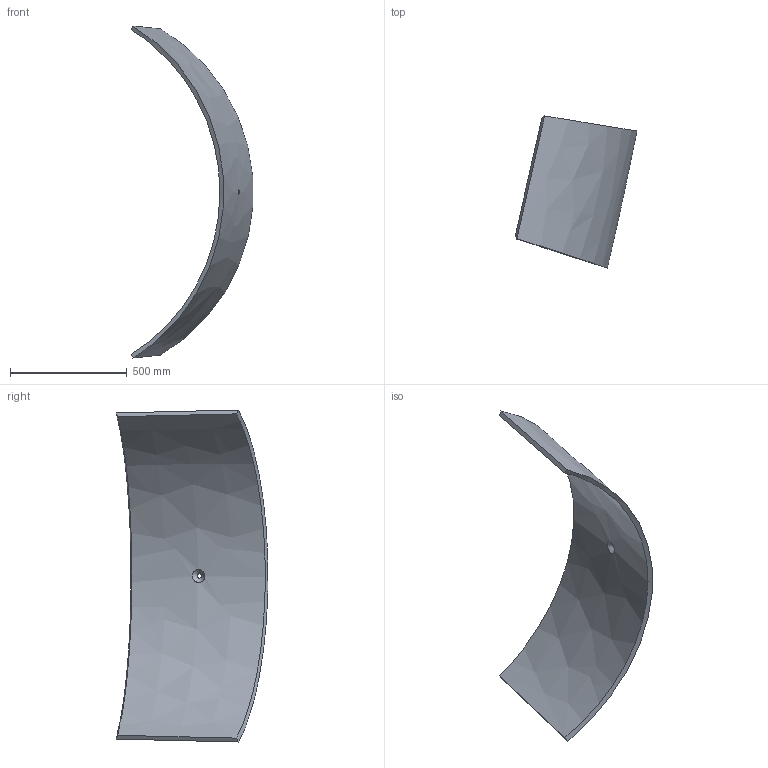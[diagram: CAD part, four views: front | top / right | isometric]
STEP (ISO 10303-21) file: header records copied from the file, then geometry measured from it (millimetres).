
FILE_DESCRIPTION (( 'STEP AP214' ), '1' );
FILE_NAME ('P5.1.STEP', '2025-01-09T19:43:28', ( '' ), ( '' ), 'SwSTEP 2.0', 'SolidWorks 2024', '' );
FILE_SCHEMA (( 'AUTOMOTIVE_DESIGN' ));
Length unit declared in the file: inch
Products named in the file (1): P5.1
Bounding box: 521.17 x 649.61 x 1421.23 mm (x, y, z)
Volume: 18089970.5 mm3; surface area: 2010316.2 mm2
Topology: 1 solids, 1 shells, 8 faces, 17 edges, 11 vertices
Faces by surface type: bspline 7, cylinder 1
Full cylindrical faces by diameter (mm): 19.431 x1
Entity records: 2448 total; most frequent: CARTESIAN_POINT 2300, ORIENTED_EDGE 30, EDGE_CURVE 15, B_SPLINE_CURVE_WITH_KNOTS 15, EDGE_LOOP 12, VERTEX_POINT 11, FACE_OUTER_BOUND 10, ADVANCED_FACE 8
